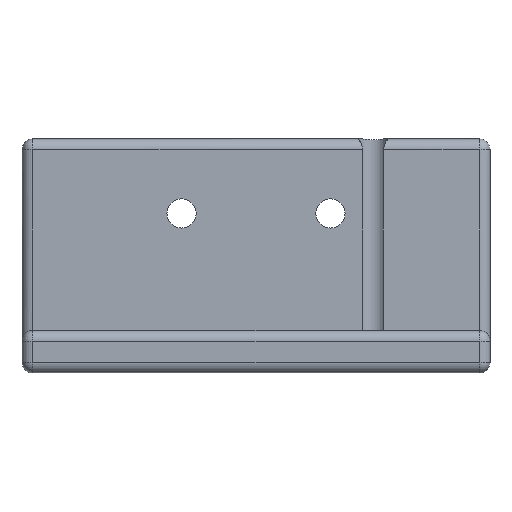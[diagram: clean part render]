
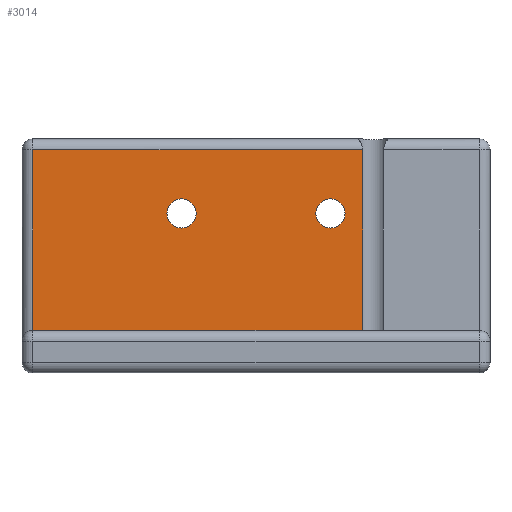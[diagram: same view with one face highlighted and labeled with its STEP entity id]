
A CAD part, front view. The second image highlights one B-rep face of the part: STEP entity #3014.
In plain terms, the highlighted planar face has unit normal (0, -1, 0).
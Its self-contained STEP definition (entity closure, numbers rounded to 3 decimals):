
#156 = CYLINDRICAL_SURFACE('',#157,2.);
#157 = AXIS2_PLACEMENT_3D('',#158,#159,#160);
#158 = CARTESIAN_POINT('',(-42.,-100.,212.));
#159 = DIRECTION('',(0.,0.,1.));
#160 = DIRECTION('',(-1.,-0.,0.));
#393 = VERTEX_POINT('',#394);
#394 = CARTESIAN_POINT('',(-42.,-102.,216.));
#408 = PLANE('',#409);
#409 = AXIS2_PLACEMENT_3D('',#410,#411,#412);
#410 = CARTESIAN_POINT('',(-44.,-158.,216.));
#411 = DIRECTION('',(0.,0.,1.));
#412 = DIRECTION('',(1.,0.,0.));
#778 = CYLINDRICAL_SURFACE('',#779,2.8);
#779 = AXIS2_PLACEMENT_3D('',#780,#781,#782);
#780 = CARTESIAN_POINT('',(22.,-100.,207.));
#781 = DIRECTION('',(0.,0.,1.));
#782 = DIRECTION('',(1.,0.,-0.));
#1231 = EDGE_CURVE('',#393,#1232,#1234,.T.);
#1232 = VERTEX_POINT('',#1233);
#1233 = CARTESIAN_POINT('',(-42.,-102.,250.));
#1234 = SURFACE_CURVE('',#1235,(#1239,#1246),.PCURVE_S1.);
#1235 = LINE('',#1236,#1237);
#1236 = CARTESIAN_POINT('',(-42.,-102.,212.));
#1237 = VECTOR('',#1238,1.);
#1238 = DIRECTION('',(0.,0.,1.));
#1239 = PCURVE('',#156,#1240);
#1240 = DEFINITIONAL_REPRESENTATION('',(#1241),#1245);
#1241 = LINE('',#1242,#1243);
#1242 = CARTESIAN_POINT('',(1.571,0.));
#1243 = VECTOR('',#1244,1.);
#1244 = DIRECTION('',(0.,1.));
#1245 = ( GEOMETRIC_REPRESENTATION_CONTEXT(2) 
PARAMETRIC_REPRESENTATION_CONTEXT() REPRESENTATION_CONTEXT('2D SPACE',''
  ) );
#1246 = PCURVE('',#1247,#1252);
#1247 = PLANE('',#1248);
#1248 = AXIS2_PLACEMENT_3D('',#1249,#1250,#1251);
#1249 = CARTESIAN_POINT('',(-44.,-102.,212.));
#1250 = DIRECTION('',(0.,1.,0.));
#1251 = DIRECTION('',(0.,0.,1.));
#1252 = DEFINITIONAL_REPRESENTATION('',(#1253),#1257);
#1253 = LINE('',#1254,#1255);
#1254 = CARTESIAN_POINT('',(0.,2.));
#1255 = VECTOR('',#1256,1.);
#1256 = DIRECTION('',(1.,0.));
#1257 = ( GEOMETRIC_REPRESENTATION_CONTEXT(2) 
PARAMETRIC_REPRESENTATION_CONTEXT() REPRESENTATION_CONTEXT('2D SPACE',''
  ) );
#1368 = VERTEX_POINT('',#1369);
#1369 = CARTESIAN_POINT('',(20.04,-102.,216.));
#1391 = EDGE_CURVE('',#1368,#393,#1392,.T.);
#1392 = SURFACE_CURVE('',#1393,(#1397,#1403),.PCURVE_S1.);
#1393 = LINE('',#1394,#1395);
#1394 = CARTESIAN_POINT('',(-44.,-102.,216.));
#1395 = VECTOR('',#1396,1.);
#1396 = DIRECTION('',(-1.,0.,0.));
#1397 = PCURVE('',#408,#1398);
#1398 = DEFINITIONAL_REPRESENTATION('',(#1399),#1402);
#1399 = B_SPLINE_CURVE_WITH_KNOTS('',1,(#1400,#1401),.UNSPECIFIED.,.F.,
  .F.,(2,2),(-86.,-2.),.PIECEWISE_BEZIER_KNOTS.);
#1400 = CARTESIAN_POINT('',(86.,56.));
#1401 = CARTESIAN_POINT('',(2.,56.));
#1402 = ( GEOMETRIC_REPRESENTATION_CONTEXT(2) 
PARAMETRIC_REPRESENTATION_CONTEXT() REPRESENTATION_CONTEXT('2D SPACE',''
  ) );
#1403 = PCURVE('',#1247,#1404);
#1404 = DEFINITIONAL_REPRESENTATION('',(#1405),#1408);
#1405 = B_SPLINE_CURVE_WITH_KNOTS('',1,(#1406,#1407),.UNSPECIFIED.,.F.,
  .F.,(2,2),(-86.,-2.),.PIECEWISE_BEZIER_KNOTS.);
#1406 = CARTESIAN_POINT('',(4.,86.));
#1407 = CARTESIAN_POINT('',(4.,2.));
#1408 = ( GEOMETRIC_REPRESENTATION_CONTEXT(2) 
PARAMETRIC_REPRESENTATION_CONTEXT() REPRESENTATION_CONTEXT('2D SPACE',''
  ) );
#1892 = CYLINDRICAL_SURFACE('',#1893,2.75);
#1893 = AXIS2_PLACEMENT_3D('',#1894,#1895,#1896);
#1894 = CARTESIAN_POINT('',(14.,-104.,238.));
#1895 = DIRECTION('',(0.,1.,0.));
#1896 = DIRECTION('',(0.,-0.,1.));
#1923 = CYLINDRICAL_SURFACE('',#1924,2.75);
#1924 = AXIS2_PLACEMENT_3D('',#1925,#1926,#1927);
#1925 = CARTESIAN_POINT('',(-14.,-104.,238.));
#1926 = DIRECTION('',(0.,1.,0.));
#1927 = DIRECTION('',(0.,-0.,1.));
#2370 = EDGE_CURVE('',#1368,#2371,#2373,.T.);
#2371 = VERTEX_POINT('',#2372);
#2372 = CARTESIAN_POINT('',(20.04,-102.,250.));
#2373 = SURFACE_CURVE('',#2374,(#2378,#2384),.PCURVE_S1.);
#2374 = LINE('',#2375,#2376);
#2375 = CARTESIAN_POINT('',(20.04,-102.,207.));
#2376 = VECTOR('',#2377,1.);
#2377 = DIRECTION('',(0.,0.,1.));
#2378 = PCURVE('',#778,#2379);
#2379 = DEFINITIONAL_REPRESENTATION('',(#2380),#2383);
#2380 = B_SPLINE_CURVE_WITH_KNOTS('',1,(#2381,#2382),.UNSPECIFIED.,.F.,
  .F.,(2,2),(5.6,46.4),.PIECEWISE_BEZIER_KNOTS.);
#2381 = CARTESIAN_POINT('',(3.937,5.6));
#2382 = CARTESIAN_POINT('',(3.937,46.4));
#2383 = ( GEOMETRIC_REPRESENTATION_CONTEXT(2) 
PARAMETRIC_REPRESENTATION_CONTEXT() REPRESENTATION_CONTEXT('2D SPACE',''
  ) );
#2384 = PCURVE('',#1247,#2385);
#2385 = DEFINITIONAL_REPRESENTATION('',(#2386),#2389);
#2386 = B_SPLINE_CURVE_WITH_KNOTS('',1,(#2387,#2388),.UNSPECIFIED.,.F.,
  .F.,(2,2),(5.6,46.4),.PIECEWISE_BEZIER_KNOTS.);
#2387 = CARTESIAN_POINT('',(0.6,64.04));
#2388 = CARTESIAN_POINT('',(41.4,64.04));
#2389 = ( GEOMETRIC_REPRESENTATION_CONTEXT(2) 
PARAMETRIC_REPRESENTATION_CONTEXT() REPRESENTATION_CONTEXT('2D SPACE',''
  ) );
#2455 = CYLINDRICAL_SURFACE('',#2456,2.);
#2456 = AXIS2_PLACEMENT_3D('',#2457,#2458,#2459);
#2457 = CARTESIAN_POINT('',(-44.,-100.,250.));
#2458 = DIRECTION('',(1.,0.,0.));
#2459 = DIRECTION('',(0.,-1.,0.));
#3014 = ADVANCED_FACE('',(#3015,#3041,#3067),#1247,.F.);
#3015 = FACE_BOUND('',#3016,.F.);
#3016 = EDGE_LOOP('',(#3017,#3018,#3019,#3020));
#3017 = ORIENTED_EDGE('',*,*,#2370,.F.);
#3018 = ORIENTED_EDGE('',*,*,#1391,.T.);
#3019 = ORIENTED_EDGE('',*,*,#1231,.T.);
#3020 = ORIENTED_EDGE('',*,*,#3021,.T.);
#3021 = EDGE_CURVE('',#1232,#2371,#3022,.T.);
#3022 = SURFACE_CURVE('',#3023,(#3027,#3034),.PCURVE_S1.);
#3023 = LINE('',#3024,#3025);
#3024 = CARTESIAN_POINT('',(-44.,-102.,250.));
#3025 = VECTOR('',#3026,1.);
#3026 = DIRECTION('',(1.,0.,0.));
#3027 = PCURVE('',#1247,#3028);
#3028 = DEFINITIONAL_REPRESENTATION('',(#3029),#3033);
#3029 = LINE('',#3030,#3031);
#3030 = CARTESIAN_POINT('',(38.,0.));
#3031 = VECTOR('',#3032,1.);
#3032 = DIRECTION('',(0.,1.));
#3033 = ( GEOMETRIC_REPRESENTATION_CONTEXT(2) 
PARAMETRIC_REPRESENTATION_CONTEXT() REPRESENTATION_CONTEXT('2D SPACE',''
  ) );
#3034 = PCURVE('',#2455,#3035);
#3035 = DEFINITIONAL_REPRESENTATION('',(#3036),#3040);
#3036 = LINE('',#3037,#3038);
#3037 = CARTESIAN_POINT('',(-0.,0.));
#3038 = VECTOR('',#3039,1.);
#3039 = DIRECTION('',(-0.,1.));
#3040 = ( GEOMETRIC_REPRESENTATION_CONTEXT(2) 
PARAMETRIC_REPRESENTATION_CONTEXT() REPRESENTATION_CONTEXT('2D SPACE',''
  ) );
#3041 = FACE_BOUND('',#3042,.F.);
#3042 = EDGE_LOOP('',(#3043));
#3043 = ORIENTED_EDGE('',*,*,#3044,.F.);
#3044 = EDGE_CURVE('',#3045,#3045,#3047,.T.);
#3045 = VERTEX_POINT('',#3046);
#3046 = CARTESIAN_POINT('',(-14.,-102.,240.75));
#3047 = SURFACE_CURVE('',#3048,(#3053,#3060),.PCURVE_S1.);
#3048 = CIRCLE('',#3049,2.75);
#3049 = AXIS2_PLACEMENT_3D('',#3050,#3051,#3052);
#3050 = CARTESIAN_POINT('',(-14.,-102.,238.));
#3051 = DIRECTION('',(0.,1.,0.));
#3052 = DIRECTION('',(0.,-0.,1.));
#3053 = PCURVE('',#1247,#3054);
#3054 = DEFINITIONAL_REPRESENTATION('',(#3055),#3059);
#3055 = CIRCLE('',#3056,2.75);
#3056 = AXIS2_PLACEMENT_2D('',#3057,#3058);
#3057 = CARTESIAN_POINT('',(26.,30.));
#3058 = DIRECTION('',(1.,0.));
#3059 = ( GEOMETRIC_REPRESENTATION_CONTEXT(2) 
PARAMETRIC_REPRESENTATION_CONTEXT() REPRESENTATION_CONTEXT('2D SPACE',''
  ) );
#3060 = PCURVE('',#1923,#3061);
#3061 = DEFINITIONAL_REPRESENTATION('',(#3062),#3066);
#3062 = LINE('',#3063,#3064);
#3063 = CARTESIAN_POINT('',(0.,2.));
#3064 = VECTOR('',#3065,1.);
#3065 = DIRECTION('',(1.,0.));
#3066 = ( GEOMETRIC_REPRESENTATION_CONTEXT(2) 
PARAMETRIC_REPRESENTATION_CONTEXT() REPRESENTATION_CONTEXT('2D SPACE',''
  ) );
#3067 = FACE_BOUND('',#3068,.F.);
#3068 = EDGE_LOOP('',(#3069));
#3069 = ORIENTED_EDGE('',*,*,#3070,.F.);
#3070 = EDGE_CURVE('',#3071,#3071,#3073,.T.);
#3071 = VERTEX_POINT('',#3072);
#3072 = CARTESIAN_POINT('',(14.,-102.,240.75));
#3073 = SURFACE_CURVE('',#3074,(#3079,#3086),.PCURVE_S1.);
#3074 = CIRCLE('',#3075,2.75);
#3075 = AXIS2_PLACEMENT_3D('',#3076,#3077,#3078);
#3076 = CARTESIAN_POINT('',(14.,-102.,238.));
#3077 = DIRECTION('',(0.,1.,0.));
#3078 = DIRECTION('',(0.,-0.,1.));
#3079 = PCURVE('',#1247,#3080);
#3080 = DEFINITIONAL_REPRESENTATION('',(#3081),#3085);
#3081 = CIRCLE('',#3082,2.75);
#3082 = AXIS2_PLACEMENT_2D('',#3083,#3084);
#3083 = CARTESIAN_POINT('',(26.,58.));
#3084 = DIRECTION('',(1.,0.));
#3085 = ( GEOMETRIC_REPRESENTATION_CONTEXT(2) 
PARAMETRIC_REPRESENTATION_CONTEXT() REPRESENTATION_CONTEXT('2D SPACE',''
  ) );
#3086 = PCURVE('',#1892,#3087);
#3087 = DEFINITIONAL_REPRESENTATION('',(#3088),#3092);
#3088 = LINE('',#3089,#3090);
#3089 = CARTESIAN_POINT('',(0.,2.));
#3090 = VECTOR('',#3091,1.);
#3091 = DIRECTION('',(1.,0.));
#3092 = ( GEOMETRIC_REPRESENTATION_CONTEXT(2) 
PARAMETRIC_REPRESENTATION_CONTEXT() REPRESENTATION_CONTEXT('2D SPACE',''
  ) );
